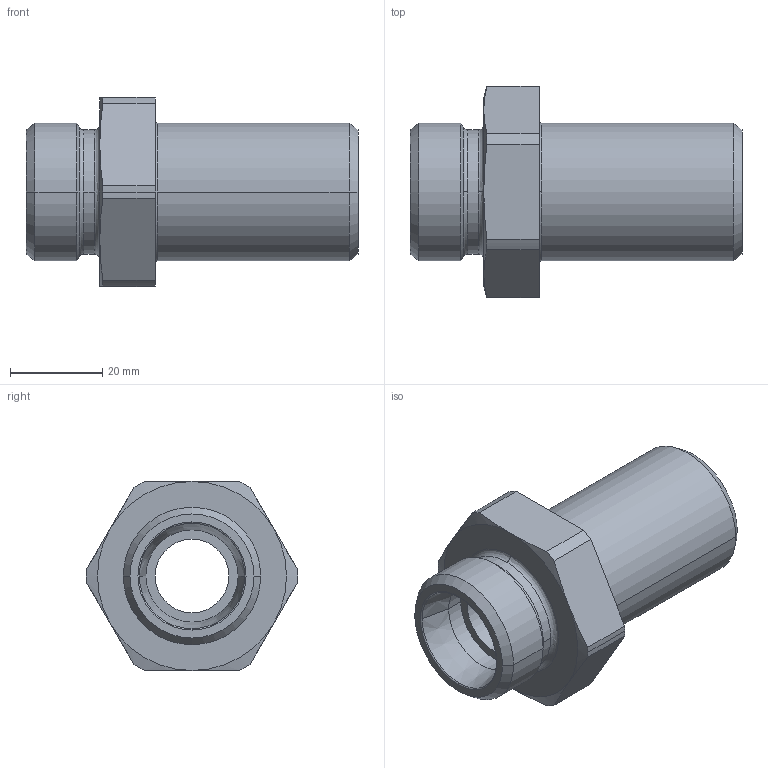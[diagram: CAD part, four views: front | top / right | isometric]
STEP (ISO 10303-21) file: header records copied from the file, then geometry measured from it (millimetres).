
FILE_DESCRIPTION((''),'2;1');
FILE_NAME('103620.stp','2007-10-31T11:38:32',(''),(''),'AutoCAD STEP 2000i','AutoCAD 2000i',', , ');
FILE_SCHEMA(('CONFIG_CONTROL_DESIGN'));
Length unit declared in the file: millimetre
Products named in the file (2): 103620.0; CHIAVE SMUSSX1036#0
Assembly tree (1 placements, depth 2):
  103620.0
    CHIAVE SMUSSX1036#0
Bounding box: 72 x 45.9 x 41 mm (x, y, z)
Volume: 40900.3 mm3; surface area: 13421.7 mm2
Topology: 1 solids, 1 shells, 58 faces, 144 edges, 92 vertices
Faces by surface type: cylinder 20, cone 16, plane 12, bspline 6, torus 4
Entity records: 2103 total; most frequent: CARTESIAN_POINT 584, DIRECTION 330, ORIENTED_EDGE 288, AXIS2_PLACEMENT_3D 144, EDGE_CURVE 144, VERTEX_POINT 92, CIRCLE 90, EDGE_LOOP 64
